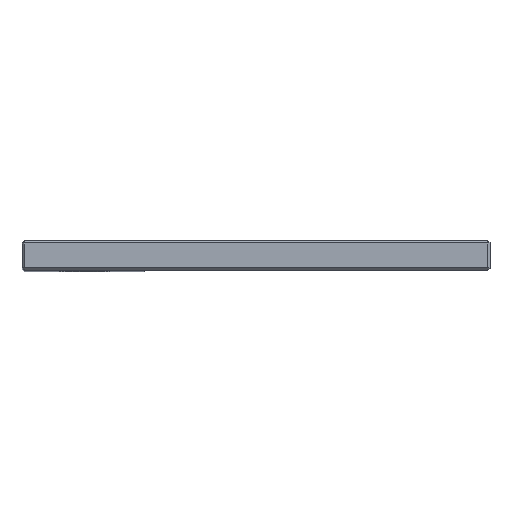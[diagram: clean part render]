
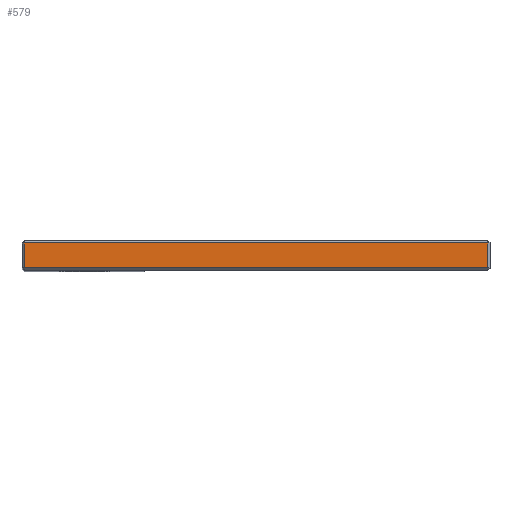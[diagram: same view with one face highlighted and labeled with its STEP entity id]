
A CAD part, top view. The second image highlights one B-rep face of the part: STEP entity #579.
In plain terms, the highlighted planar face has unit normal (0, 0, 1).
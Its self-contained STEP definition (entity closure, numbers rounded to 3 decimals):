
#205 = CARTESIAN_POINT ( 'NONE',  ( 186.5, 11., 0. ) ) ;
#207 = CARTESIAN_POINT ( 'NONE',  ( 1., 12., 0. ) ) ;
#253 = EDGE_CURVE ( 'NONE', #2167, #1832, #454, .T. ) ;
#314 = LINE ( 'NONE', #2013, #456 ) ;
#322 = AXIS2_PLACEMENT_3D ( 'NONE', #1543, #442, #2878 ) ;
#331 = ORIENTED_EDGE ( 'NONE', *, *, #2687, .T. ) ;
#379 = FACE_OUTER_BOUND ( 'NONE', #1979, .T. ) ;
#392 = CARTESIAN_POINT ( 'NONE',  ( 186.5, 1., 0. ) ) ;
#422 = CARTESIAN_POINT ( 'NONE',  ( 1., 11., 0. ) ) ;
#442 = DIRECTION ( 'NONE',  ( 0., 0., -1. ) ) ;
#454 = LINE ( 'NONE', #2315, #1547 ) ;
#456 = VECTOR ( 'NONE', #2694, 1000. ) ;
#579 = ADVANCED_FACE ( 'NONE', ( #379 ), #2226, .F. ) ;
#774 = ORIENTED_EDGE ( 'NONE', *, *, #2843, .T. ) ;
#839 = VECTOR ( 'NONE', #2713, 1000. ) ;
#849 = ORIENTED_EDGE ( 'NONE', *, *, #2536, .T. ) ;
#1177 = VECTOR ( 'NONE', #1732, 1000. ) ;
#1500 = VERTEX_POINT ( 'NONE', #1646 ) ;
#1543 = CARTESIAN_POINT ( 'NONE',  ( 0., 12., 0. ) ) ;
#1547 = VECTOR ( 'NONE', #1852, 1000. ) ;
#1593 = LINE ( 'NONE', #1803, #839 ) ;
#1646 = CARTESIAN_POINT ( 'NONE',  ( 1., 1., 0. ) ) ;
#1732 = DIRECTION ( 'NONE',  ( 0., -1., 0. ) ) ;
#1803 = CARTESIAN_POINT ( 'NONE',  ( 0., 11., 0. ) ) ;
#1832 = VERTEX_POINT ( 'NONE', #205 ) ;
#1852 = DIRECTION ( 'NONE',  ( 0., 1., 0. ) ) ;
#1979 = EDGE_LOOP ( 'NONE', ( #849, #331, #774, #2024 ) ) ;
#2013 = CARTESIAN_POINT ( 'NONE',  ( 0., 1., 0. ) ) ;
#2024 = ORIENTED_EDGE ( 'NONE', *, *, #253, .T. ) ;
#2167 = VERTEX_POINT ( 'NONE', #392 ) ;
#2226 = PLANE ( 'NONE',  #322 ) ;
#2296 = LINE ( 'NONE', #207, #1177 ) ;
#2315 = CARTESIAN_POINT ( 'NONE',  ( 186.5, 12., 0. ) ) ;
#2536 = EDGE_CURVE ( 'NONE', #1832, #2651, #1593, .T. ) ;
#2651 = VERTEX_POINT ( 'NONE', #422 ) ;
#2687 = EDGE_CURVE ( 'NONE', #2651, #1500, #2296, .T. ) ;
#2694 = DIRECTION ( 'NONE',  ( 1., 0., 0. ) ) ;
#2713 = DIRECTION ( 'NONE',  ( -1., 0., 0. ) ) ;
#2843 = EDGE_CURVE ( 'NONE', #1500, #2167, #314, .T. ) ;
#2878 = DIRECTION ( 'NONE',  ( -1., 0., 0. ) ) ;
